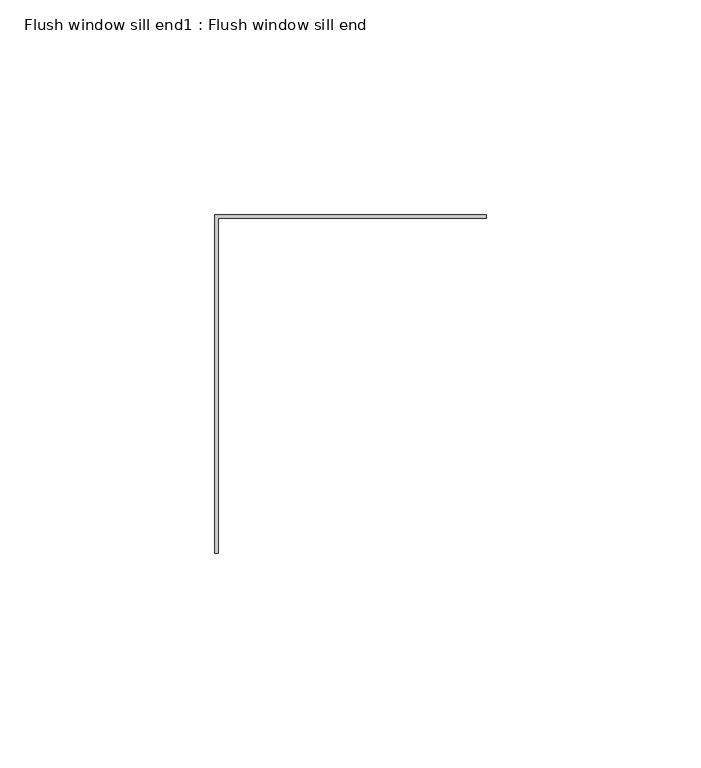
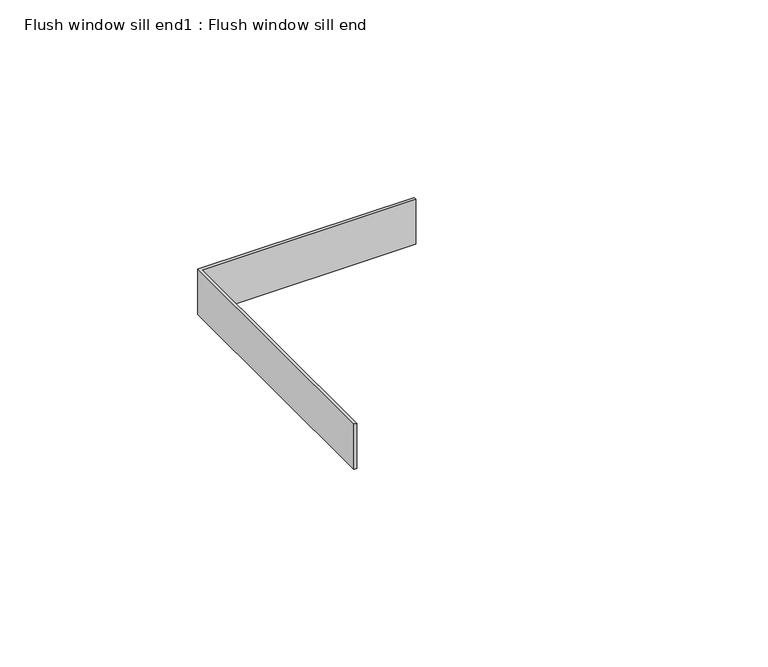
"""IFC4 building model written with IfcOpenShell, lengths in millimetres: proxy geometry, Flush window sill end1 : Flush window sill end."""

from ifc_helpers import new_model, si_unit, frame, origin, place, context, project, spatial, polyline, outline, extrude, source, transform, mapped, element, save


def flush_window_sill_end1_flush_window_sill_end_4a2a89ea(model_context):
    return source(origin(), model_context, "Body", "SweptSolid", [
        extrude(outline(polyline([(16283.7094678, -26726.1803264), (16282.8825627, -26726.1803264), (16282.8825627, -26647.1823445), (16346.1944801, -26647.1823445), (16346.1944801, -26648.0092497), (16283.7094678, -26648.0092497), (16283.7094678, -26726.1803264)])), frame((0.0, 0.0, -885.662203), z_axis=(0.0, 0.0, 1.0), x_axis=(1.0, 0.0, 0.0)), (0.0, 0.0, 1.0), 13.9452881),
    ])


if __name__ == "__main__":
    model = new_model("IFC4")
    model_context = context("Model", 3, world=origin())
    ifc_project = project(units=[si_unit("LENGTHUNIT", "METRE", prefix="MILLI")], contexts=[model_context])
    site = spatial("IfcSite", under=ifc_project)
    building = spatial("IfcBuilding", under=site)
    placement = place(None, origin())
    flush_window_sill_end1_flush_window_sill_end_shape = flush_window_sill_end1_flush_window_sill_end_4a2a89ea(model_context)
    element("IfcBuildingElementProxy", 1, Name="Flush window sill end1 : Flush window sill end", ObjectType="Flush window sill end1 : Flush window sill end", at=placement, inside=building, context=model_context, shape_type="MappedRepresentation", body=[
        mapped(flush_window_sill_end1_flush_window_sill_end_shape, transform((0.0, 0.0, 0.0), x_axis=(1.0, 0.0, 0.0), y_axis=(0.0, 1.0, 0.0), z_axis=(0.0, 0.0, 1.0))),
    ])
    save(model, "model.ifc")
